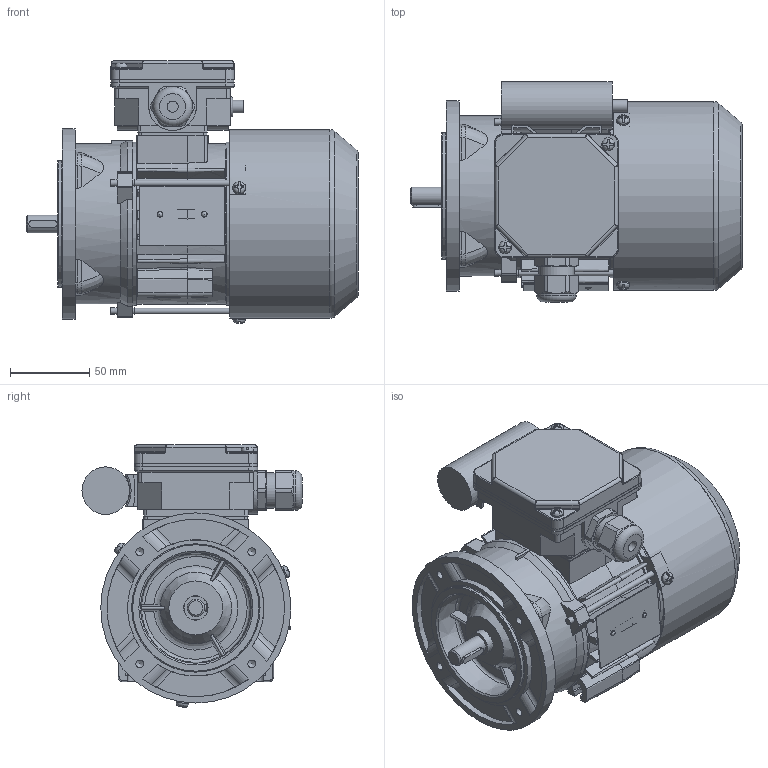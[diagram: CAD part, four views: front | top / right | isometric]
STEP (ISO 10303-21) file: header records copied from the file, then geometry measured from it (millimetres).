
FILE_DESCRIPTION(/* description */ ('Unknown'),/* implementation_level */ '2;1');
FILE_NAME(/* name */ '3SSIEK63-2A1',/* time_stamp */ '2024-06-28T10:50:29+02:00',/* author */ ('Unknown'),/* organization */ ('Unknown'),/* preprocessor_version */ 'ST-DEVELOPER v16.7',/* originating_system */ 'Solid Edge',/* authorisation */ 'Unknown');
FILE_SCHEMA (('AUTOMOTIVE_DESIGN {1 0 10303 214 3 1 1}'));
Length unit declared in the file: millimetre
Products named in the file (1): Czêœæ8
Bounding box: 209.49 x 138.82 x 165.7 mm (x, y, z)
Volume: 552194.4 mm3; surface area: 329847.5 mm2
Topology: 3 solids, 3 shells, 1887 faces, 5292 edges, 3446 vertices
Faces by surface type: plane 952, cylinder 550, torus 131, bspline 118, cone 115, sphere 21
Full cylindrical faces by diameter (mm): 2.4 x2, 3 x1, 3.7 x7, 4 x8, 4.5 x5, 4.6 x1, 4.8 x2, 5 x6, 6.5 x1, 7 x4, 7.999 x1, 8 x6, 10.999 x1, 12.899 x1, 13.099 x1, 14.998 x2, 15.4 x2, 18.998 x2, 19.498 x1, 19.998 x1, 20.098 x1, 21.518 x4, 22.3 x1, 25 x1, 28 x2, 28.48 x4, 29.997 x1, 31 x2, 35 x3, 71.993 x1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
Entity records: 76339 total; most frequent: CARTESIAN_POINT 16632, ORIENTED_EDGE 9924, DIRECTION 9230, EDGE_CURVE 4962, AXIS2_PLACEMENT_3D 3398, VERTEX_POINT 3324, LINE 2434, VECTOR 2434
